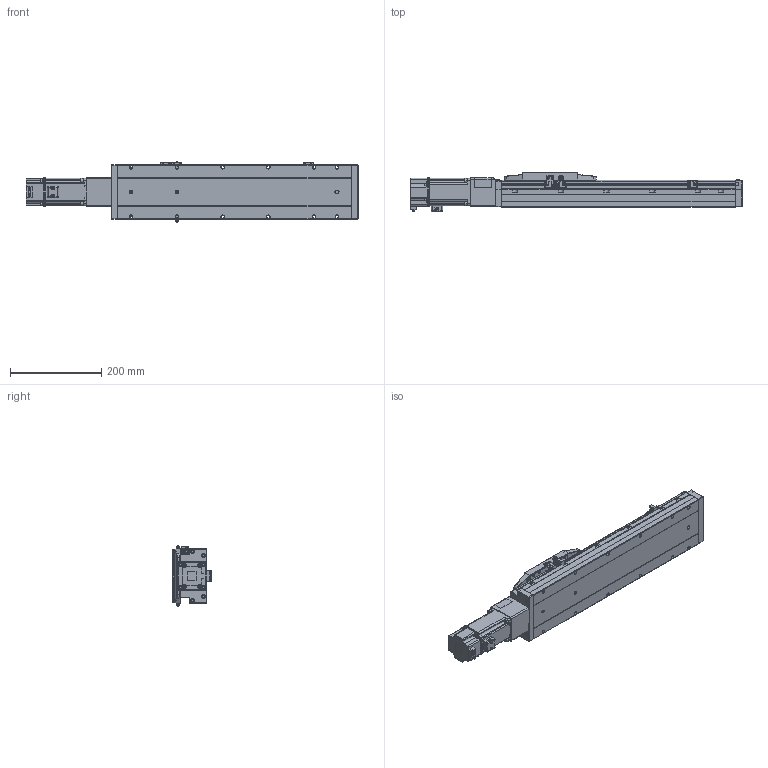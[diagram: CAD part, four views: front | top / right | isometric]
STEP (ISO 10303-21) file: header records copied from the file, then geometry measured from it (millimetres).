
FILE_DESCRIPTION (( 'STEP AP214' ), '1' );
FILE_NAME ('CTH12-L10-S300-BC-C40（简）.STEP', '2023-02-06T05:32:47', ( '' ), ( '' ), 'SwSTEP 2.0', 'SolidWorks 2018', '' );
FILE_SCHEMA (( 'AUTOMOTIVE_DESIGN' ));
Length unit declared in the file: millimetre
Products named in the file (23): 内六角圆柱头螺钉M3-2; CTH12-BC-03_1; hex nuts, style 1-grades ab gb_GB_FASTENER_NUT_SNAB1 M3-N; 蚐郲; CTH嫖萇羲壽假蚾啣; 嫖萇羲壽郪磁1333; CTH12萇儂釱; CTH12覜茼え; CTH12底座-L511简（300行程）; CTH12賑怢郪磁; CTH12賑怢ㄗ潠ㄘ; CTH12-L10-S300-BC-C40（简）; PM-Y45; 嫖萇羲壽郪磁2; CTH12-BL_body_4; CTH12_body_3; 400W萇儂; 内六角圆柱头螺钉M3-1; CTH12-BC-06-T40（cth8-bc-06-t40-G）_1; 内六角圆柱头螺钉M3; M5蹟隊; 湮賑怢  裔赽-1(CTH12)賑怢; CTH12
Assembly tree (43 placements, depth 4):
  CTH12-L10-S300-BC-C40（简）
    CTH12底座-L511简（300行程）
    蚐郲  x2
    CTH12-BL_body_4
    CTH12_body_3
    CTH12賑怢郪磁
      CTH12
        湮賑怢  裔赽-1(CTH12)賑怢
        CTH12賑怢ㄗ潠ㄘ
    CTH12覜茼え
    嫖萇羲壽郪磁2
      CTH嫖萇羲壽假蚾啣
      PM-Y45
      内六角圆柱头螺钉M3-1  x2
      内六角圆柱头螺钉M3-2  x2
      hex nuts, style 1-grades ab gb_GB_FASTENER_NUT_SNAB1 M3-N  x2
    CTH12萇儂釱
      CTH12-BC-03_1
      CTH12-BC-06-T40（cth8-bc-06-t40-G）_1
    嫖萇羲壽郪磁1333  x2
      CTH嫖萇羲壽假蚾啣
      PM-Y45
      内六角圆柱头螺钉M3-2
      内六角圆柱头螺钉M3-1
      hex nuts, style 1-grades ab gb_GB_FASTENER_NUT_SNAB1 M3-N
    内六角圆柱头螺钉M3  x6
    400W萇儂
    M5蹟隊  x4
Bounding box: 725.8 x 86.5 x 131.52 mm (x, y, z)
Volume: 3943554.6 mm3; surface area: 477395.8 mm2
Topology: 45 solids, 47 shells, 2798 faces, 6926 edges, 4353 vertices
Faces by surface type: plane 1392, cylinder 851, cone 299, bspline 128, torus 124, sphere 4
Entity records: 86176 total; most frequent: CARTESIAN_POINT 29534, ORIENTED_EDGE 10954, DIRECTION 10672, EDGE_CURVE 5477, AXIS2_PLACEMENT_3D 3741, VERTEX_POINT 3457, VECTOR 3190, LINE 3190
